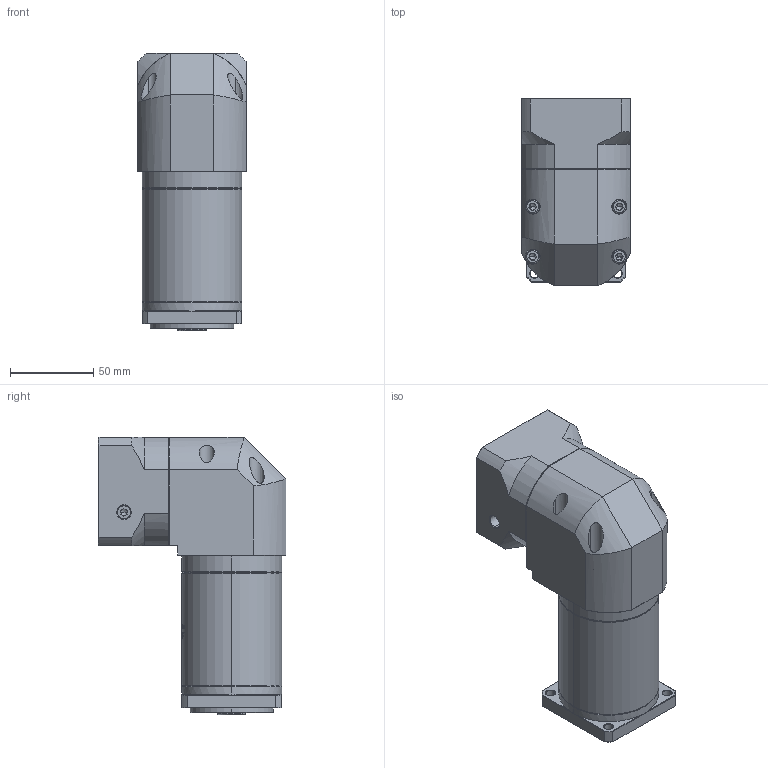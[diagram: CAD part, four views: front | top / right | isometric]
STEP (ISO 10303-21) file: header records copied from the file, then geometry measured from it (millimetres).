
FILE_DESCRIPTION (( 'STEP AP214' ), '1' );
FILE_NAME ('ZFR060-K10-L3-P2-14-60-75-M5.step', '2023-08-17T03:39:45', ( '' ), ( '' ), 'SwSTEP 2.0', 'SolidWorks 2016', '' );
FILE_SCHEMA (( 'AUTOMOTIVE_DESIGN' ));
Length unit declared in the file: millimetre
Products named in the file (1): ZFR060-K10-L3-P2-14-60-75-M5
Bounding box: 65 x 112.7 x 166.5 mm (x, y, z)
Volume: 643607.3 mm3; surface area: 85367 mm2
Topology: 5 solids, 6 shells, 1857 faces, 4983 edges, 3222 vertices
Faces by surface type: plane 840, cylinder 364, bspline 347, cone 282, torus 24
Entity records: 100284 total; most frequent: CARTESIAN_POINT 37233, ORIENTED_EDGE 9926, DIRECTION 7478, EDGE_CURVE 4963, VERTEX_POINT 3222, LINE 2554, VECTOR 2554, AXIS2_PLACEMENT_3D 2462
